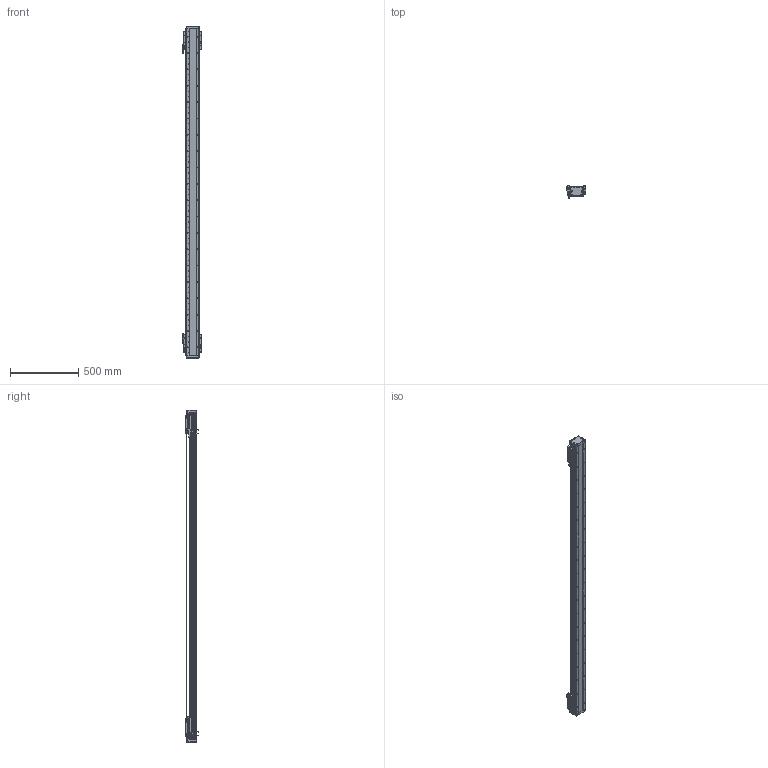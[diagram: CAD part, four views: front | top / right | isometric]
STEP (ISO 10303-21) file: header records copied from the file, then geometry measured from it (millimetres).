
FILE_DESCRIPTION (( 'STEP AP203' ), '1' );
FILE_NAME ('DA-B95-2-B15-T2060-C010-0.2 直线电机.STEP', '2023-05-06T06:35:52', ( '微软用户' ), ( '微软中国' ), 'SwSTEP 2.0', 'SolidWorks 2019', '' );
FILE_SCHEMA (( 'CONFIG_CONTROL_DESIGN' ));
Length unit declared in the file: millimetre
Products named in the file (34): 66245-BU95-V-00 珨极趙賑雄怢啣; 复件 DA95-MFP-01 密封片^66245-BU95-V 滚珠滑台; DA95-HXJ-00 缓冲橡胶^DA-A95-B15-T-C010-0.2-N 直线电机; 葩璃 DA95-B15-DP--B-00 菜えB^66245-BU95-V 幗紩賑怢; IU-BU95-L 菁釱絳寢; 复件 DKW-HXJ-JY-00 缓冲橡胶^DA-A95-B15-T-C010-0.2-N 直线电机; 复件 六角薄螺母 M3^DA-A95-B15-T-C010-0.2-N 直线电机_GB_FASTENER_NUT_STNAB M3-C; 66245-BU95-V 幗紩賑怢; B15 XD-U-02L ｴﾅﾕ､ｳﾟ^DA-A95-B15-T-C010-0.2-N ﾖｱﾏﾟｵ扈銈XD-U-02L; DA-B95-2-B15-T2060-C010-0.2 眻盄萇儂; 复件 DA95-DK-00 挡块^66245-BU95-V 滚珠滑台; 葩璃 DA95-B15-DP-A-00 菜えA^66245-BU95-V 幗紩賑怢; 复件 复件 18252-0001-003-00 钢带拉块^DA-A95-B15-T-C010-0.2-N 直线电机; 复件 DA95-HK-GT-00 滑块钢轨^66245-BU95-V-00 一体化滑动台板; 复件 DA95-DB-00  挡板^66245-BU95-V 滚珠滑台; 葩璃 DA95-GT-T-00^IU-BU95-L 菁釱絳寢_DA95; DA-A95-GYP-00 光电感应片^DA-A95-B15-T-C010-0.2-N 直线电机; 复件 DA95-B15 钢带盖板^DA-A95-B15-T-C010-0.2-N 直线电机; LMDK-2-R001-V5-L02-C1-F00，0.2M 读数头^DA-A95-B15-T-C010-0.2-N 直线电机_DMA-010-0.2; 复件 DKW-GYP-ZJ-00 中间光电感应片^DA-A95-B15-T-C010-0.2-N 直线电机; IU-BU95-L-00 菁釱_L2400; 复件 DA95-B15-YB-A-00 压板A^66245-BU95-V 滚珠滑台; 复件 纯铜油杯 6x6mm^66245-BU95-V 滚珠滑台; 葩璃 BKM015-W060-C1-TP-DA-0.2^DA-A95-B15-T-C010-0.2-N 眻盄萇儂; 葩璃 PM-Y45^DA-A95-B15-T-C010-0.2-N 眻盄萇儂; 复件 复件 18252-0001-004-00 钢带端盖^DA-A95-B15-T-C010-0.2-N 直线电机; PM-T45 光电开关^DA-A95-B15-T-C010-0.2-N 直线电机; 葩璃 BKMA01-W060-TRL^DA-A95-B15-T-C010-0.2-N 眻盄萇儂; 复件 DA95-B15-YB-B-00 压板B^66245-BU95-V 滚珠滑台; 复件 66245-BU95-HT-V-01 滑动台板^66245-BU95-V-00 一体化滑动台板; 复件 DKW-KGZ-ZJ-00 中间光电开关支架^DA-A95-B15-T-C010-0.2-N 直线电机; 复件 复件 18252-0001-002-00 钢带垫块^DA-A95-B15-T-C010-0.2-N 直线电机
Assembly tree (80 placements, depth 4):
  DA-B95-2-B15-T2060-C010-0.2 眻盄萇儂
    IU-BU95-L 菁釱絳寢
      IU-BU95-L-00 菁釱_L2400
      葩璃 DA95-GT-T-00^IU-BU95-L 菁釱絳寢_DA95  x2
    66245-BU95-V 幗紩賑怢
      66245-BU95-V-00 珨极趙賑雄怢啣
        复件 66245-BU95-HT-V-01 滑动台板^66245-BU95-V-00 一体化滑动台板
        复件 DA95-HK-GT-00 滑块钢轨^66245-BU95-V-00 一体化滑动台板  x2
      葩璃 DA95-B15-DP-A-00 菜えA^66245-BU95-V 幗紩賑怢
      复件 DA95-B15-YB-A-00 压板A^66245-BU95-V 滚珠滑台
      复件 DA95-B15-YB-B-00 压板B^66245-BU95-V 滚珠滑台
      复件 DA95-DB-00  挡板^66245-BU95-V 滚珠滑台  x4
      复件 DA95-DK-00 挡块^66245-BU95-V 滚珠滑台  x2
      复件 DA95-MFP-01 密封片^66245-BU95-V 滚珠滑台  x4
      复件 纯铜油杯 6x6mm^66245-BU95-V 滚珠滑台  x2
      葩璃 DA95-B15-DP--B-00 菜えB^66245-BU95-V 幗紩賑怢
    66245-BU95-V 幗紩賑怢
      66245-BU95-V-00 珨极趙賑雄怢啣
        复件 66245-BU95-HT-V-01 滑动台板^66245-BU95-V-00 一体化滑动台板
        复件 DA95-HK-GT-00 滑块钢轨^66245-BU95-V-00 一体化滑动台板  x2
      葩璃 DA95-B15-DP-A-00 菜えA^66245-BU95-V 幗紩賑怢
      复件 DA95-B15-YB-A-00 压板A^66245-BU95-V 滚珠滑台
      复件 DA95-B15-YB-B-00 压板B^66245-BU95-V 滚珠滑台
      复件 DA95-DB-00  挡板^66245-BU95-V 滚珠滑台  x4
      复件 DA95-DK-00 挡块^66245-BU95-V 滚珠滑台  x2
      复件 DA95-MFP-01 密封片^66245-BU95-V 滚珠滑台  x4
      复件 纯铜油杯 6x6mm^66245-BU95-V 滚珠滑台  x2
      葩璃 DA95-B15-DP--B-00 菜えB^66245-BU95-V 幗紩賑怢
    DA-A95-GYP-00 光电感应片^DA-A95-B15-T-C010-0.2-N 直线电机  x2
    LMDK-2-R001-V5-L02-C1-F00，0.2M 读数头^DA-A95-B15-T-C010-0.2-N 直线电机_DMA-010-0.2  x2
    复件 DKW-KGZ-ZJ-00 中间光电开关支架^DA-A95-B15-T-C010-0.2-N 直线电机
    葩璃 PM-Y45^DA-A95-B15-T-C010-0.2-N 眻盄萇儂
    复件 DKW-GYP-ZJ-00 中间光电感应片^DA-A95-B15-T-C010-0.2-N 直线电机
    葩璃 BKM015-W060-C1-TP-DA-0.2^DA-A95-B15-T-C010-0.2-N 眻盄萇儂  x2
    复件 DKW-HXJ-JY-00 缓冲橡胶^DA-A95-B15-T-C010-0.2-N 直线电机  x2
    PM-T45 光电开关^DA-A95-B15-T-C010-0.2-N 直线电机  x4
    B15 XD-U-02L ｴﾅﾕ､ｳﾟ^DA-A95-B15-T-C010-0.2-N ﾖｱﾏﾟｵ扈銈XD-U-02L
    复件 复件 18252-0001-003-00 钢带拉块^DA-A95-B15-T-C010-0.2-N 直线电机  x2
    复件 复件 18252-0001-002-00 钢带垫块^DA-A95-B15-T-C010-0.2-N 直线电机  x2
    复件 复件 18252-0001-004-00 钢带端盖^DA-A95-B15-T-C010-0.2-N 直线电机  x2
    复件 DA95-B15 钢带盖板^DA-A95-B15-T-C010-0.2-N 直线电机
    DA95-HXJ-00 缓冲橡胶^DA-A95-B15-T-C010-0.2-N 直线电机  x4
    葩璃 BKMA01-W060-TRL^DA-A95-B15-T-C010-0.2-N 眻盄萇儂
    复件 六角薄螺母 M3^DA-A95-B15-T-C010-0.2-N 直线电机_GB_FASTENER_NUT_STNAB M3-C  x6
Bounding box: 145.4 x 90.2 x 2436 mm (x, y, z)
Volume: 7977168.9 mm3; surface area: 2635919.9 mm2
Topology: 75 solids, 93 shells, 4152 faces, 11644 edges, 7375 vertices
Faces by surface type: cylinder 2117, plane 1503, cone 464, torus 64, sphere 4
Entity records: 98938 total; most frequent: CARTESIAN_POINT 25568, ORIENTED_EDGE 14646, DIRECTION 14238, EDGE_CURVE 7323, AXIS2_PLACEMENT_3D 5413, VERTEX_POINT 4777, LINE 3412, VECTOR 3412
